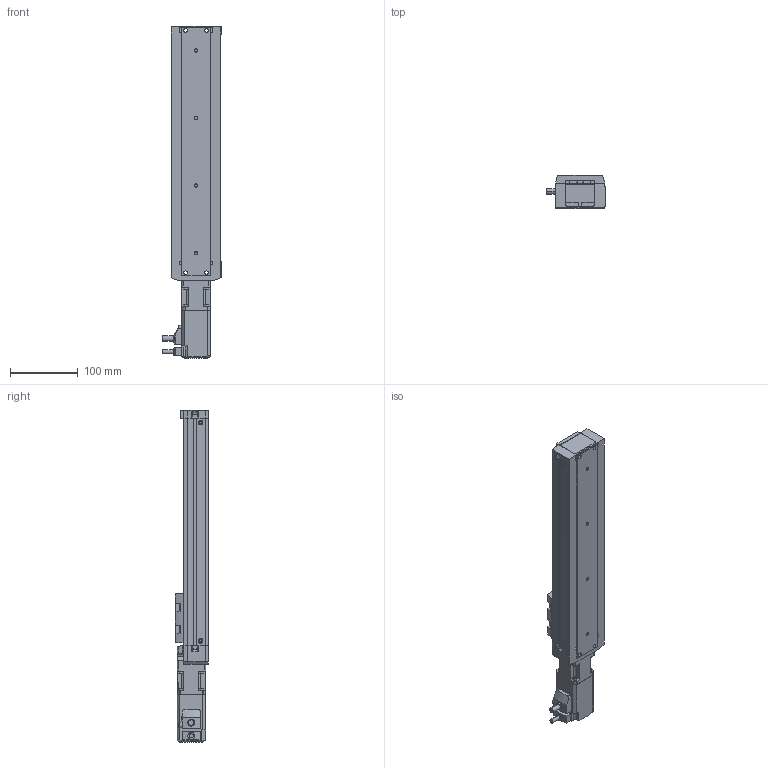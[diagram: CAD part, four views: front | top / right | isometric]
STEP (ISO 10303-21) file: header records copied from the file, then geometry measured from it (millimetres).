
FILE_DESCRIPTION (( 'STEP AP203' ), '1' );
FILE_NAME ('EZSM4D025AZAK.step', '2015-06-30T14:41:44', ( 'om' ), ( 'Hewlett-Packard Company' ), 'SwSTEP 2.0', 'SolidWorks 2014', '' );
FILE_SCHEMA (( 'CONFIG_CONTROL_DESIGN' ));
Length unit declared in the file: millimetre
Products named in the file (4): EZSM4D025AZAK_Motor; EZSM4D025AZAK_BASE; EZSM4D025AZAK_Table; EZSM4D025AZAK
Assembly tree (3 placements, depth 2):
  EZSM4D025AZAK
    EZSM4D025AZAK_Motor
    EZSM4D025AZAK_BASE
    EZSM4D025AZAK_Table
Bounding box: 86 x 50 x 491 mm (x, y, z)
Volume: 1256144.9 mm3; surface area: 149374.6 mm2
Topology: 3 solids, 5 shells, 939 faces, 2372 edges, 1526 vertices
Faces by surface type: plane 584, cylinder 263, cone 54, torus 33, sphere 4, bspline 1
Entity records: 28782 total; most frequent: CARTESIAN_POINT 5310, DIRECTION 4853, ORIENTED_EDGE 4728, EDGE_CURVE 2364, VECTOR 1679, LINE 1679, AXIS2_PLACEMENT_3D 1587, VERTEX_POINT 1526
